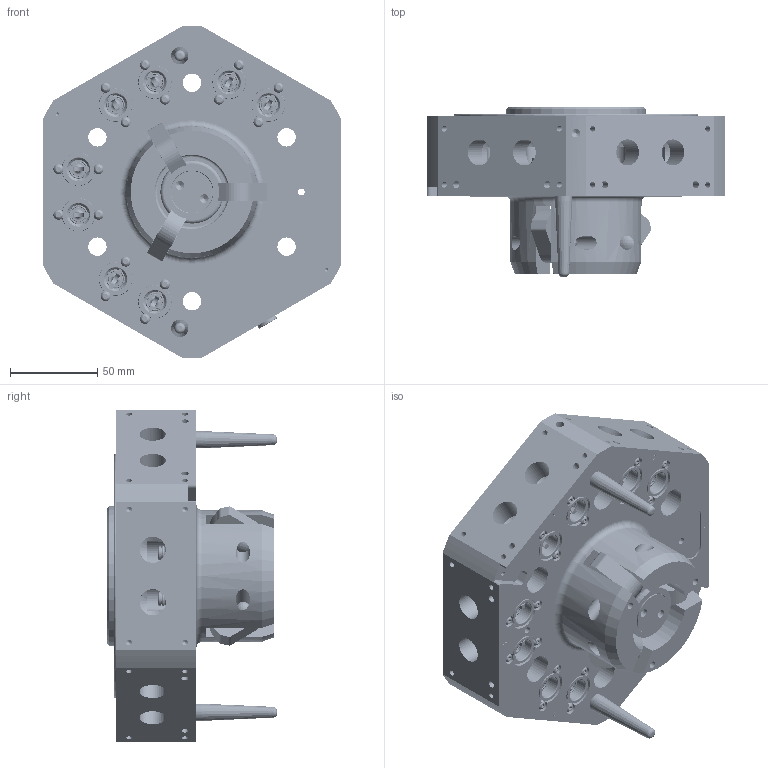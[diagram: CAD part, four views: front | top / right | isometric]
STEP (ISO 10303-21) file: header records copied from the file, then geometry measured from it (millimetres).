
FILE_DESCRIPTION (( 'STEP AP214' ), '1' );
FILE_NAME ('1600-D02A REV00.STEP', '2019-07-15T18:21:30', ( '' ), ( '' ), 'SwSTEP 2.0', 'SolidWorks 2019', '' );
FILE_SCHEMA (( 'AUTOMOTIVE_DESIGN' ));
Length unit declared in the file: millimetre
Products named in the file (43): 49185; 99502-C1059A; 0104-B71N; 98508-P1024; 48008; 97501-P1084; 1600-D06A; 1600-C07N; 0104-C62N; 0104-B64N; 48414; 95505-P1087; 0109-P32N; 87515-P2047; 88503-P1084; 48016_48016; 99500-B1045; 0701-P17N; 1600-D02A REV00; 0201-P78N; 1507-P01N; 89501-P1064; 1600-E03N; 95500-C1069; 0107-C47N; 0104-B59N; 1600-C05N; 0104-B63N; 0701-P16N; 1601-D29A; 0101-P08N; 1600-C08N; 48012; 1600-C04N; 48427; 49537
Assembly tree (123 placements, depth 3):
  1600-D02A REV00
    1601-D29A
      1600-E03N
      1600-C04N
      1600-C05N
      0104-B71N  x2
      0701-P16N
      48427  x2
      0701-P17N
      0109-P32N
      0104-B59N  x3
      0107-C47N  x3
      0104-C62N
      0104-B64N
      0104-B63N
      49185  x2
      0201-P78N
      48016_48016  x6
      49537  x3
    1600-D06A
      1600-C07N
      1600-C08N
      1507-P01N  x2
      48414  x2
      48012  x4
      48008  x2
      87515-P2047  x6
      95505-P1087  x6
      97501-P1084  x2
    99502-C1059A
      99500-B1045
      95500-C1069
      0101-P08N
      89501-P1064
      98508-P1024
      88503-P1084  x2
    99502-C1059A
      99500-B1045
      95500-C1069
      0101-P08N
      89501-P1064
      98508-P1024
      88503-P1084  x2
    99502-C1059A
      99500-B1045
      95500-C1069
      0101-P08N
      89501-P1064
      98508-P1024
      88503-P1084  x2
    99502-C1059A
      99500-B1045
      95500-C1069
      0101-P08N
      89501-P1064
      98508-P1024
      88503-P1084  x2
    99502-C1059A
      99500-B1045
      95500-C1069
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Bounding box: 170 x 97 x 190 mm (x, y, z)
Volume: 1092931.6 mm3; surface area: 280278 mm2
Topology: 113 solids, 113 shells, 3213 faces, 7460 edges, 4654 vertices
Faces by surface type: plane 1212, cylinder 1103, cone 440, torus 232, bspline 210, sphere 16
Entity records: 79662 total; most frequent: CARTESIAN_POINT 32972, DIRECTION 8992, ORIENTED_EDGE 8828, EDGE_CURVE 4414, AXIS2_PLACEMENT_3D 3405, VERTEX_POINT 2844, EDGE_LOOP 2204, VECTOR 2182
